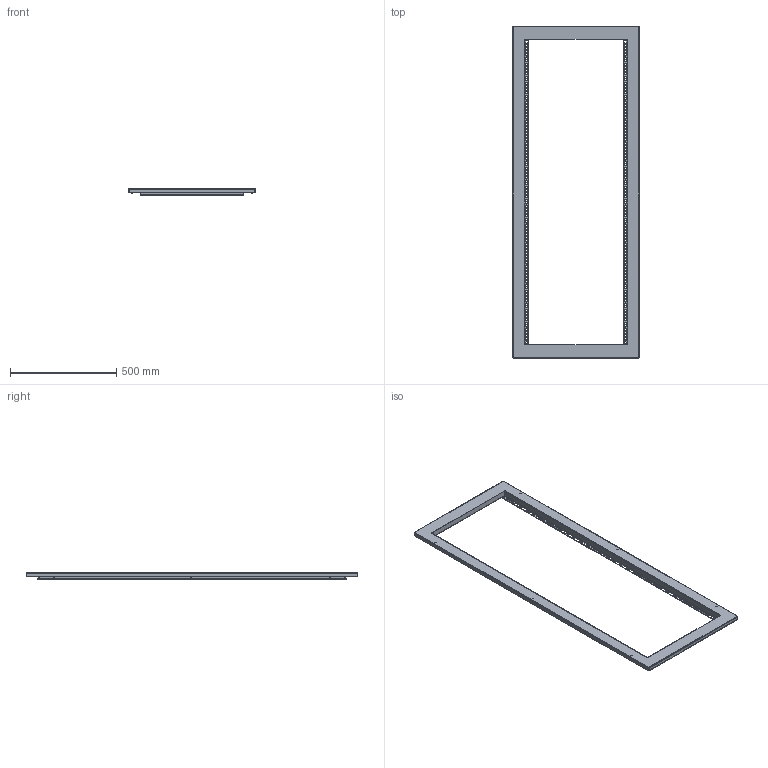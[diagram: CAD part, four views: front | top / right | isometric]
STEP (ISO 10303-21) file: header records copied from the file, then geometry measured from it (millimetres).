
FILE_DESCRIPTION (( 'STEP AP203' ), '1' );
FILE_NAME ('EUCR032060.STEP', '2015-04-22T14:05:26', ( 'Admin' ), ( '' ), 'SwSTEP 2.0', 'SolidWorks 2014', '' );
FILE_SCHEMA (( 'CONFIG_CONTROL_DESIGN' ));
Length unit declared in the file: millimetre
Products named in the file (1): EUCR032060
Bounding box: 595 x 1560 x 30 mm (x, y, z)
Volume: 916484.8 mm3; surface area: 946759.5 mm2
Topology: 1 solids, 1 shells, 1408 faces, 4137 edges, 2736 vertices
Faces by surface type: plane 953, cylinder 435, cone 12, sphere 8
Entity records: 47400 total; most frequent: CARTESIAN_POINT 8280, ORIENTED_EDGE 8258, DIRECTION 7823, EDGE_CURVE 4129, LINE 3249, VECTOR 3249, VERTEX_POINT 2736, AXIS2_PLACEMENT_3D 2287
